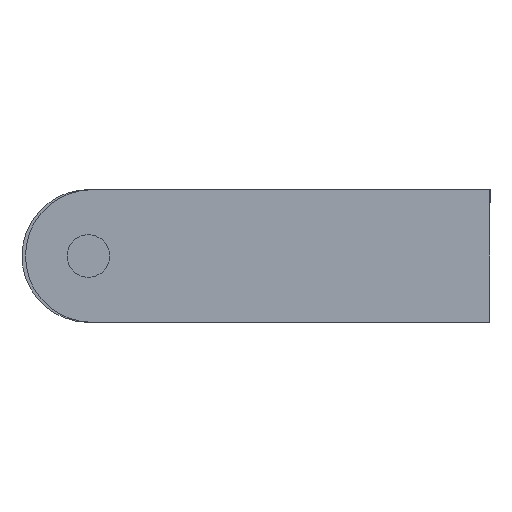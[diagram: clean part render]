
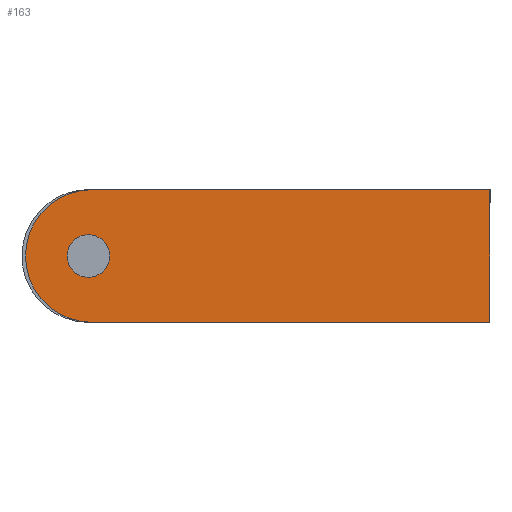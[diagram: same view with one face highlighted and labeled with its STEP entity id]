
A CAD part, left-side view. The second image highlights one B-rep face of the part: STEP entity #163.
In plain terms, the highlighted planar face has unit normal (-1, 0, 0).
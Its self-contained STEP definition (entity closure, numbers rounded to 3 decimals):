
#81=CARTESIAN_POINT('Vertex',(0.,60.55,-9.5)) ;
#84=CARTESIAN_POINT('Axis2P3D Location',(0.,57.5,-9.5)) ;
#88=CARTESIAN_POINT('Vertex',(0.,54.45,-9.5)) ;
#108=CARTESIAN_POINT('Axis2P3D Location',(0.,57.5,-9.5)) ;
#120=CARTESIAN_POINT('Axis2P3D Location',(0.,0.,0.)) ;
#125=CARTESIAN_POINT('Line Origine',(0.,28.5,0.)) ;
#129=CARTESIAN_POINT('Vertex',(0.,57.,0.)) ;
#131=CARTESIAN_POINT('Vertex',(0.,0.,0.)) ;
#134=CARTESIAN_POINT('Axis2P3D Location',(0.,57.,-9.5)) ;
#138=CARTESIAN_POINT('Vertex',(0.,57.,-19.)) ;
#141=CARTESIAN_POINT('Line Origine',(0.,28.5,-19.)) ;
#145=CARTESIAN_POINT('Vertex',(0.,0.,-19.)) ;
#148=CARTESIAN_POINT('Line Origine',(0.,0.,-9.5)) ;
#85=DIRECTION('Axis2P3D Direction',(-1.,-0.,0.)) ;
#109=DIRECTION('Axis2P3D Direction',(-1.,-0.,0.)) ;
#121=DIRECTION('Axis2P3D Direction',(1.,0.,0.)) ;
#122=DIRECTION('Axis2P3D XDirection',(0.,1.,0.)) ;
#126=DIRECTION('Vector Direction',(0.,1.,0.)) ;
#135=DIRECTION('Axis2P3D Direction',(1.,0.,0.)) ;
#142=DIRECTION('Vector Direction',(0.,-1.,0.)) ;
#149=DIRECTION('Vector Direction',(0.,0.,1.)) ;
#86=AXIS2_PLACEMENT_3D('Circle Axis2P3D',#84,#85,$) ;
#110=AXIS2_PLACEMENT_3D('Circle Axis2P3D',#108,#109,$) ;
#123=AXIS2_PLACEMENT_3D('Plane Axis2P3D',#120,#121,#122) ;
#136=AXIS2_PLACEMENT_3D('Circle Axis2P3D',#134,#135,$) ;
#154=ORIENTED_EDGE('',*,*,#133,.F.) ;
#155=ORIENTED_EDGE('',*,*,#140,.F.) ;
#156=ORIENTED_EDGE('',*,*,#147,.F.) ;
#157=ORIENTED_EDGE('',*,*,#152,.F.) ;
#160=ORIENTED_EDGE('',*,*,#90,.F.) ;
#161=ORIENTED_EDGE('',*,*,#112,.F.) ;
#162=FACE_BOUND('',#159,.T.) ;
#127=VECTOR('Line Direction',#126,1.) ;
#143=VECTOR('Line Direction',#142,1.) ;
#150=VECTOR('Line Direction',#149,1.) ;
#163=ADVANCED_FACE('PartBody',(#158,#162),#124,.F.) ;
#87=CIRCLE('generated circle',#86,3.05) ;
#111=CIRCLE('generated circle',#110,3.05) ;
#137=CIRCLE('generated circle',#136,9.5) ;
#90=EDGE_CURVE('',#82,#89,#87,.T.) ;
#112=EDGE_CURVE('',#89,#82,#111,.T.) ;
#133=EDGE_CURVE('',#130,#132,#128,.F.) ;
#140=EDGE_CURVE('',#139,#130,#137,.T.) ;
#147=EDGE_CURVE('',#146,#139,#144,.F.) ;
#152=EDGE_CURVE('',#132,#146,#151,.F.) ;
#153=EDGE_LOOP('',(#154,#155,#156,#157)) ;
#159=EDGE_LOOP('',(#160,#161)) ;
#158=FACE_OUTER_BOUND('',#153,.T.) ;
#128=LINE('Line',#125,#127) ;
#144=LINE('Line',#141,#143) ;
#151=LINE('Line',#148,#150) ;
#124=PLANE('',#123) ;
#82=VERTEX_POINT('',#81) ;
#89=VERTEX_POINT('',#88) ;
#130=VERTEX_POINT('',#129) ;
#132=VERTEX_POINT('',#131) ;
#139=VERTEX_POINT('',#138) ;
#146=VERTEX_POINT('',#145) ;
